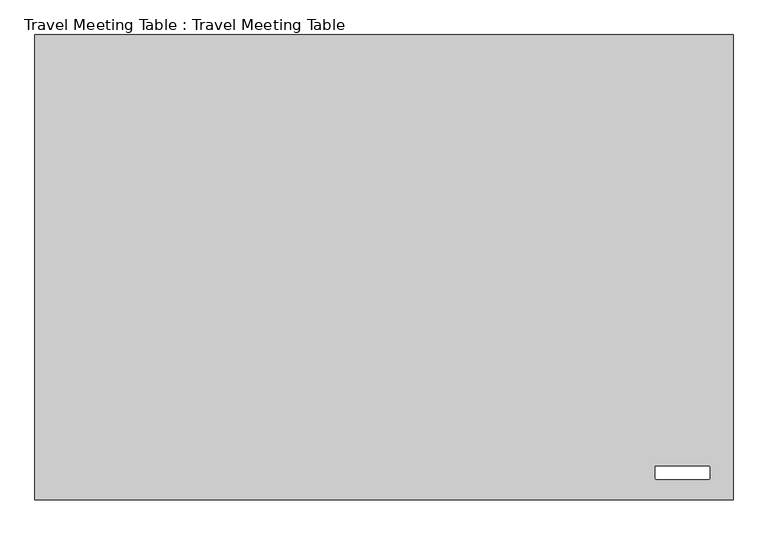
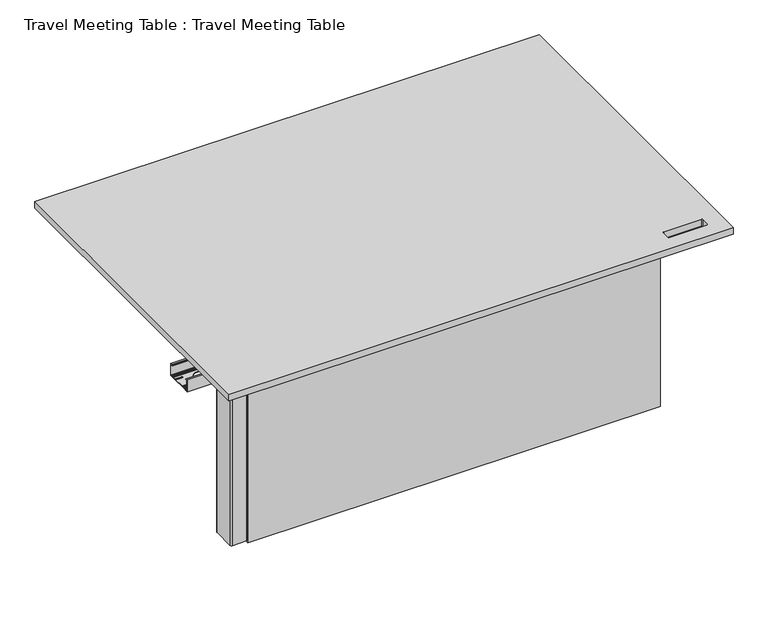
"""IFC4 building model written with IfcOpenShell, lengths in millimetres: furniture geometry, Travel Meeting Table : Travel Meeting Table."""

from ifc_helpers import new_model, si_unit, point, frame, frame_2d, origin, origin_with_axes, place, context, project, spatial, polyline, circle_curve, trimmed, segment, composite_curve, outline, extrude, source, transform, mapped, element, save
from ifc_brep_helpers import plane_surface, cylinder_surface, revolved_surface, advanced_brep


def travel_meeting_table_travel_meeting_table_50cc2492(model_context):
    return source(origin(), model_context, "Body", "SolidModel", [
        advanced_brep(
        [(777.5, -129.3349834, 445.9399678), (777.5, -129.3349834, 401.4999478), (777.5, -104.1674426, 401.4999478), (777.5, -104.1674426, 403.5399396), (777.5, -112.251976, 403.5399396), (777.5, -113.2114043, 404.7244349), (777.5, -114.1621004, 408.0556929), (777.5, -115.3250115, 406.9566355), (777.5, -118.3083302, 406.985035), (777.5, -119.513885, 408.0405045), (777.5, -120.4539023, 404.7426784), (777.5, -121.4331352, 403.5399396), (777.5, -127.674983, 403.5399396), (777.5, -127.674983, 442.7399451), (777.5, -120.6350057, 442.7399451), (777.5, -120.6350057, 444.2399626), (777.5, -123.9349496, 444.2399626), (777.5, -123.9349496, 445.9399678), (777.5, -27.4999929, 401.4999478), (777.5, -27.4999929, 445.9399678), (777.5, -32.9000267, 445.9399678), (777.5, -32.9000267, 444.2399626), (777.5, -36.1999706, 444.2399626), (777.5, -36.1999706, 442.7399451), (777.5, -29.1599933, 442.7399451), (777.5, -29.1599933, 403.5399396), (777.5, -35.4018411, 403.5399396), (777.5, -36.381074, 404.7426784), (777.5, -37.3210913, 408.0405045), (777.5, -38.5266461, 406.985035), (777.5, -41.5099648, 406.9566355), (777.5, -42.6728759, 408.0556929), (777.5, -43.623572, 404.7244349), (777.5, -44.5830003, 403.5399396), (777.5, -52.6675337, 403.5399396), (777.5, -52.6675337, 401.4999478), (777.5, -97.6675486, 401.4999478), (777.5, -59.1674277, 401.4999478), (777.5, -59.1674277, 403.5399396), (777.5, -97.6675486, 403.5399396), (-777.5, -129.3349834, 401.4999478), (-777.5, -129.3349834, 445.9399678), (-777.5, -123.9349496, 445.9399678), (-777.5, -123.9349496, 444.2399626), (-777.5, -120.6350057, 444.2399626), (-777.5, -120.6350057, 442.7399451), (-777.5, -127.674983, 442.7399451), (-777.5, -127.674983, 403.5399396), (-777.5, -121.4331352, 403.5399396), (-777.5, -120.4539023, 404.7426784), (-777.5, -119.513885, 408.0405045), (-777.5, -118.3083302, 406.985035), (-777.5, -115.3250115, 406.9566355), (-777.5, -114.1621004, 408.0556929), (-777.5, -113.2114043, 404.7244349), (-777.5, -112.251976, 403.5399396), (-777.5, -104.1674426, 403.5399396), (-777.5, -104.1674426, 401.4999478), (-777.5, -27.4999929, 445.9399678), (-777.5, -27.4999929, 401.4999478), (-777.5, -52.6675337, 401.4999478), (-777.5, -52.6675337, 403.5399396), (-777.5, -44.5830003, 403.5399396), (-777.5, -43.623572, 404.7244349), (-777.5, -42.6728759, 408.0556929), (-777.5, -41.5099648, 406.9566355), (-777.5, -38.5266461, 406.985035), (-777.5, -37.3210913, 408.0405045), (-777.5, -36.381074, 404.7426784), (-777.5, -35.4018411, 403.5399396), (-777.5, -29.1599933, 403.5399396), (-777.5, -29.1599933, 442.7399451), (-777.5, -36.1999706, 442.7399451), (-777.5, -36.1999706, 444.2399626), (-777.5, -32.9000267, 444.2399626), (-777.5, -32.9000267, 445.9399678), (-777.5, -97.6675486, 403.5399396), (-777.5, -59.1674277, 403.5399396), (-777.5, -59.1674277, 401.4999478), (-777.5, -97.6675486, 401.4999478), (-754.7499352, -104.1674426, 401.4999478), (-754.7499352, -97.6675486, 401.4999478), (-754.7499352, -59.1674277, 401.4999478), (-754.7499352, -52.6675337, 401.4999478), (754.7499352, -52.6675337, 401.4999478), (754.7499352, -59.1674277, 401.4999478), (754.7499352, -97.6675486, 401.4999478), (754.7499352, -104.1674426, 401.4999478), (-722.4484184, -78.4174882, 401.4999478), (-672.4484184, -78.4174882, 401.4999478), (672.4484184, -78.4174882, 401.4999478), (722.4484184, -78.4174882, 401.4999478), (-754.7499352, -52.6675337, 403.5399396), (-754.7499352, -59.1674277, 403.5399396), (-754.7499352, -97.6675486, 403.5399396), (-754.7499352, -104.1674426, 403.5399396), (754.7499352, -104.1674426, 403.5399396), (754.7499352, -97.6675486, 403.5399396), (754.7499352, -59.1674277, 403.5399396), (754.7499352, -52.6675337, 403.5399396), (-672.4484184, -78.4174882, 403.5399396), (-722.4484184, -78.4174882, 403.5399396), (722.4484184, -78.4174882, 403.5399396), (672.4484184, -78.4174882, 403.5399396)],
        [
            (0, 1),
            (1, 2),
            (2, 3),
            (3, 4),
            (4, 5, circle_curve(frame((777.5, -112.251976, 404.5207505), z_axis=(-1.0, 0.0, 0.0), x_axis=(0.0, 1.0, 0.0)), 0.9808109)),
            (5, 6, circle_curve(frame((777.5, -116.8307408, 405.492812), z_axis=(1.0, 0.0, 0.0), x_axis=(0.0, 1.0, 0.0)), 3.7)),
            (6, 7, circle_curve(frame((777.5, -114.7513108, 407.5143696), z_axis=(1.0, 0.0, 0.0), x_axis=(0.0, 1.0, 0.0)), 0.8001249)),
            (7, 8, circle_curve(frame((777.5, -116.8307408, 405.492812), z_axis=(-1.0, 0.0, 0.0), x_axis=(0.0, 1.0, 0.0)), 2.1)),
            (8, 9, circle_curve(frame((777.5, -118.932436, 407.4884085), z_axis=(1.0, 0.0, 0.0), x_axis=(0.0, 1.0, 0.0)), 0.801806)),
            (9, 10, circle_curve(frame((777.5, -116.8307408, 405.492812), z_axis=(1.0, 0.0, 0.0), x_axis=(0.0, 1.0, 0.0)), 3.7)),
            (10, 11, circle_curve(frame((777.5, -121.4331352, 404.5399396), z_axis=(-1.0, 0.0, 0.0), x_axis=(0.0, 1.0, 0.0)), 1.0)),
            (11, 12),
            (12, 13),
            (13, 14),
            (14, 15),
            (15, 16),
            (16, 17),
            (17, 0),
            (18, 19),
            (19, 20),
            (20, 21),
            (21, 22),
            (22, 23),
            (23, 24),
            (24, 25),
            (25, 26),
            (26, 27, circle_curve(frame((777.5, -35.4018411, 404.5399396), z_axis=(-1.0, 0.0, 0.0), x_axis=(0.0, -1.0, 0.0)), 1.0)),
            (27, 28, circle_curve(frame((777.5, -40.0042355, 405.492812), z_axis=(1.0, 0.0, 0.0), x_axis=(0.0, -1.0, 0.0)), 3.7)),
            (28, 29, circle_curve(frame((777.5, -37.9025403, 407.4884085), z_axis=(1.0, 0.0, 0.0), x_axis=(0.0, -1.0, 0.0)), 0.801806)),
            (29, 30, circle_curve(frame((777.5, -40.0042355, 405.492812), z_axis=(-1.0, 0.0, 0.0), x_axis=(0.0, -1.0, 0.0)), 2.1)),
            (30, 31, circle_curve(frame((777.5, -42.0836655, 407.5143696), z_axis=(1.0, 0.0, 0.0), x_axis=(0.0, -1.0, 0.0)), 0.8001249)),
            (31, 32, circle_curve(frame((777.5, -40.0042355, 405.492812), z_axis=(1.0, 0.0, 0.0), x_axis=(0.0, -1.0, 0.0)), 3.7)),
            (32, 33, circle_curve(frame((777.5, -44.5830003, 404.5207505), z_axis=(-1.0, 0.0, 0.0), x_axis=(0.0, -1.0, 0.0)), 0.9808109)),
            (33, 34),
            (34, 35),
            (35, 18),
            (36, 37),
            (37, 38),
            (38, 39),
            (39, 36),
            (40, 41),
            (41, 42),
            (42, 43),
            (43, 44),
            (44, 45),
            (45, 46),
            (46, 47),
            (47, 48),
            (48, 49, circle_curve(frame((-777.5, -121.4331352, 404.5399396), z_axis=(1.0, 0.0, 0.0), x_axis=(0.0, 1.0, 0.0)), 1.0)),
            (49, 50, circle_curve(frame((-777.5, -116.8307408, 405.492812), z_axis=(-1.0, 0.0, 0.0), x_axis=(0.0, 1.0, 0.0)), 3.7)),
            (50, 51, circle_curve(frame((-777.5, -118.932436, 407.4884085), z_axis=(-1.0, 0.0, 0.0), x_axis=(0.0, 1.0, 0.0)), 0.801806)),
            (51, 52, circle_curve(frame((-777.5, -116.8307408, 405.492812), z_axis=(1.0, 0.0, 0.0), x_axis=(0.0, 1.0, 0.0)), 2.1)),
            (52, 53, circle_curve(frame((-777.5, -114.7513108, 407.5143696), z_axis=(-1.0, 0.0, 0.0), x_axis=(0.0, 1.0, 0.0)), 0.8001249)),
            (53, 54, circle_curve(frame((-777.5, -116.8307408, 405.492812), z_axis=(-1.0, 0.0, 0.0), x_axis=(0.0, 1.0, 0.0)), 3.7)),
            (54, 55, circle_curve(frame((-777.5, -112.251976, 404.5207505), z_axis=(1.0, 0.0, 0.0), x_axis=(0.0, 1.0, 0.0)), 0.9808109)),
            (55, 56),
            (56, 57),
            (57, 40),
            (58, 59),
            (59, 60),
            (60, 61),
            (61, 62),
            (62, 63, circle_curve(frame((-777.5, -44.5830003, 404.5207505), z_axis=(1.0, 0.0, 0.0), x_axis=(0.0, -1.0, 0.0)), 0.9808109)),
            (63, 64, circle_curve(frame((-777.5, -40.0042355, 405.492812), z_axis=(-1.0, 0.0, 0.0), x_axis=(0.0, -1.0, 0.0)), 3.7)),
            (64, 65, circle_curve(frame((-777.5, -42.0836655, 407.5143696), z_axis=(-1.0, 0.0, 0.0), x_axis=(0.0, -1.0, 0.0)), 0.8001249)),
            (65, 66, circle_curve(frame((-777.5, -40.0042355, 405.492812), z_axis=(1.0, 0.0, 0.0), x_axis=(0.0, -1.0, 0.0)), 2.1)),
            (66, 67, circle_curve(frame((-777.5, -37.9025403, 407.4884085), z_axis=(-1.0, 0.0, 0.0), x_axis=(0.0, -1.0, 0.0)), 0.801806)),
            (67, 68, circle_curve(frame((-777.5, -40.0042355, 405.492812), z_axis=(-1.0, 0.0, 0.0), x_axis=(0.0, -1.0, 0.0)), 3.7)),
            (68, 69, circle_curve(frame((-777.5, -35.4018411, 404.5399396), z_axis=(1.0, 0.0, 0.0), x_axis=(0.0, -1.0, 0.0)), 1.0)),
            (69, 70),
            (70, 71),
            (71, 72),
            (72, 73),
            (73, 74),
            (74, 75),
            (75, 58),
            (76, 77),
            (77, 78),
            (78, 79),
            (79, 76),
            (0, 41),
            (40, 1),
            (57, 80),
            (80, 81, circle_curve(frame((-754.7499352, -100.9174956, 401.4999478), z_axis=(0.0, 0.0, 1.0), x_axis=(1.0, 0.0, 0.0)), 3.249947)),
            (81, 79),
            (78, 82),
            (82, 83, circle_curve(frame((-754.7499352, -55.9174807, 401.4999478), z_axis=(0.0, 0.0, 1.0), x_axis=(1.0, 0.0, 0.0)), 3.249947)),
            (83, 60),
            (59, 18),
            (35, 84),
            (84, 85, circle_curve(frame((754.7499352, -55.9174807, 401.4999478), z_axis=(0.0, 0.0, 1.0), x_axis=(-1.0, 0.0, 0.0)), 3.249947)),
            (85, 37),
            (36, 86),
            (86, 87, circle_curve(frame((754.7499352, -100.9174956, 401.4999478), z_axis=(0.0, 0.0, 1.0), x_axis=(-1.0, 0.0, 0.0)), 3.249947)),
            (87, 2),
            (88, 89, circle_curve(frame((-697.4484184, -78.4174882, 401.4999478), z_axis=(0.0, 0.0, 1.0), x_axis=(1.0, 0.0, 0.0)), 25.0)),
            (89, 88, circle_curve(frame((-697.4484184, -78.4174882, 401.4999478), z_axis=(0.0, 0.0, 1.0), x_axis=(1.0, 0.0, 0.0)), 25.0)),
            (90, 91, circle_curve(frame((697.4484184, -78.4174882, 401.4999478), z_axis=(0.0, 0.0, 1.0), x_axis=(-1.0, 0.0, 0.0)), 25.0)),
            (91, 90, circle_curve(frame((697.4484184, -78.4174882, 401.4999478), z_axis=(0.0, 0.0, 1.0), x_axis=(-1.0, 0.0, 0.0)), 25.0)),
            (58, 19),
            (75, 20),
            (74, 21),
            (73, 22),
            (72, 23),
            (71, 24),
            (70, 25),
            (69, 26),
            (68, 27),
            (67, 28),
            (66, 29),
            (65, 30),
            (64, 31),
            (63, 32),
            (62, 33),
            (61, 92),
            (92, 93, circle_curve(frame((-754.7499352, -55.9174807, 403.5399396), z_axis=(0.0, 0.0, -1.0), x_axis=(1.0, 0.0, 0.0)), 3.249947)),
            (93, 77),
            (76, 94),
            (94, 95, circle_curve(frame((-754.7499352, -100.9174956, 403.5399396), z_axis=(0.0, 0.0, -1.0), x_axis=(1.0, 0.0, 0.0)), 3.249947)),
            (95, 56),
            (55, 4),
            (3, 96),
            (96, 97, circle_curve(frame((754.7499352, -100.9174956, 403.5399396), z_axis=(0.0, 0.0, -1.0), x_axis=(-1.0, 0.0, 0.0)), 3.249947)),
            (97, 39),
            (38, 98),
            (98, 99, circle_curve(frame((754.7499352, -55.9174807, 403.5399396), z_axis=(0.0, 0.0, -1.0), x_axis=(-1.0, 0.0, 0.0)), 3.249947)),
            (99, 34),
            (100, 101, circle_curve(frame((-697.4484184, -78.4174882, 403.5399396), z_axis=(0.0, 0.0, -1.0), x_axis=(1.0, 0.0, 0.0)), 25.0)),
            (101, 100, circle_curve(frame((-697.4484184, -78.4174882, 403.5399396), z_axis=(0.0, 0.0, -1.0), x_axis=(1.0, 0.0, 0.0)), 25.0)),
            (102, 103, circle_curve(frame((697.4484184, -78.4174882, 403.5399396), z_axis=(0.0, 0.0, -1.0), x_axis=(-1.0, 0.0, 0.0)), 25.0)),
            (103, 102, circle_curve(frame((697.4484184, -78.4174882, 403.5399396), z_axis=(0.0, 0.0, -1.0), x_axis=(-1.0, 0.0, 0.0)), 25.0)),
            (54, 5),
            (53, 6),
            (52, 7),
            (51, 8),
            (50, 9),
            (49, 10),
            (48, 11),
            (47, 12),
            (46, 13),
            (45, 14),
            (44, 15),
            (43, 16),
            (42, 17),
            (83, 92),
            (93, 82),
            (95, 80),
            (94, 81),
            (88, 101),
            (100, 89),
            (99, 84),
            (85, 98),
            (87, 96),
            (86, 97),
            (102, 91),
            (90, 103),
        ],
        [
            plane_surface(frame((777.5, -129.3349834, 401.4999478), z_axis=(1.0, 0.0, 0.0), x_axis=(0.0, 0.0, -1.0))),
            plane_surface(frame((-777.5, -129.3349834, 401.4999478), z_axis=(-1.0, 0.0, 0.0), x_axis=(0.0, 0.0, 1.0))),
            plane_surface(frame((777.5, -129.3349834, 445.9399678), z_axis=(0.0, -1.0, 0.0), x_axis=(-1.0, 0.0, 0.0))),
            plane_surface(frame((777.5, -129.3349834, 401.4999478), z_axis=(0.0, 0.0, -1.0), x_axis=(-1.0, 0.0, 0.0))),
            plane_surface(frame((777.5, -27.4999929, 401.4999478), z_axis=(0.0, 1.0, 0.0), x_axis=(-1.0, 0.0, 0.0))),
            plane_surface(frame((777.5, -27.4999929, 445.9399678), z_axis=(0.0, 0.0, 1.0), x_axis=(-1.0, 0.0, 0.0))),
            plane_surface(frame((777.5, -32.9000267, 445.9399678), z_axis=(0.0, -1.0, 0.0), x_axis=(-1.0, 0.0, 0.0))),
            plane_surface(frame((777.5, -32.9000267, 444.2399626), z_axis=(0.0, 0.0, 1.0), x_axis=(-1.0, 0.0, 0.0))),
            plane_surface(frame((777.5, -36.1999706, 444.2399626), z_axis=(0.0, -1.0, 0.0), x_axis=(-1.0, 0.0, 0.0))),
            plane_surface(frame((777.5, -36.1999706, 442.7399451), z_axis=(0.0, 0.0, -1.0), x_axis=(-1.0, 0.0, 0.0))),
            plane_surface(frame((777.5, -29.1599933, 442.7399451), z_axis=(0.0, -1.0, 0.0), x_axis=(-1.0, 0.0, 0.0))),
            plane_surface(frame((777.5, -29.1599933, 403.5399396), z_axis=(0.0, 0.0, 1.0), x_axis=(-1.0, 0.0, 0.0))),
            revolved_surface(polyline([(-777.5, -36.4018411, 404.5399396), (777.5, -36.4018411, 404.5399396)]), (-777.5, -35.4018411, 404.5399396), (-1.0, 0.0, 0.0)),
            cylinder_surface(frame((-777.5, -40.0042355, 405.492812), z_axis=(1.0, 0.0, 0.0), x_axis=(0.0, -1.0, 0.0)), 3.7),
            cylinder_surface(frame((-777.5, -37.9025403, 407.4884085), z_axis=(1.0, 0.0, 0.0), x_axis=(0.0, -1.0, 0.0)), 0.801806),
            revolved_surface(polyline([(-777.5, -42.1042355, 405.492812), (777.5, -42.1042355, 405.492812)]), (-777.5, -40.0042355, 405.492812), (-1.0, 0.0, 0.0)),
            cylinder_surface(frame((-777.5, -42.0836655, 407.5143696), z_axis=(1.0, 0.0, 0.0), x_axis=(0.0, -1.0, 0.0)), 0.8001249),
            revolved_surface(polyline([(-777.5, -45.5638112, 404.5207505), (777.5, -45.5638112, 404.5207505)]), (-777.5, -44.5830003, 404.5207505), (-1.0, 0.0, 0.0)),
            plane_surface(frame((777.5, -44.5830003, 403.5399396), z_axis=(0.0, 0.0, 1.0), x_axis=(-1.0, 0.0, 0.0))),
            revolved_surface(polyline([(-777.5, -111.2711651, 404.5207505), (777.5, -111.2711651, 404.5207505)]), (-777.5, -112.251976, 404.5207505), (-1.0, 0.0, 0.0)),
            cylinder_surface(frame((-777.5, -116.8307408, 405.492812), z_axis=(1.0, 0.0, 0.0), x_axis=(0.0, 1.0, 0.0)), 3.7),
            cylinder_surface(frame((-777.5, -114.7513108, 407.5143696), z_axis=(1.0, 0.0, 0.0), x_axis=(0.0, 1.0, 0.0)), 0.8001249),
            revolved_surface(polyline([(-777.5, -114.7307408, 405.492812), (777.5, -114.7307408, 405.492812)]), (-777.5, -116.8307408, 405.492812), (-1.0, 0.0, 0.0)),
            cylinder_surface(frame((-777.5, -118.932436, 407.4884085), z_axis=(1.0, 0.0, 0.0), x_axis=(0.0, 1.0, 0.0)), 0.801806),
            revolved_surface(polyline([(-777.5, -120.4331352, 404.5399396), (777.5, -120.4331352, 404.5399396)]), (-777.5, -121.4331352, 404.5399396), (-1.0, 0.0, 0.0)),
            plane_surface(frame((777.5, -121.4331352, 403.5399396), z_axis=(0.0, 0.0, 1.0), x_axis=(-1.0, 0.0, 0.0))),
            plane_surface(frame((777.5, -127.674983, 403.5399396), z_axis=(0.0, 1.0, 0.0), x_axis=(-1.0, 0.0, 0.0))),
            plane_surface(frame((777.5, -127.674983, 442.7399451), z_axis=(0.0, 0.0, -1.0), x_axis=(-1.0, 0.0, 0.0))),
            plane_surface(frame((777.5, -120.6350057, 442.7399451), z_axis=(0.0, 1.0, 0.0), x_axis=(-1.0, 0.0, 0.0))),
            plane_surface(frame((777.5, -120.6350057, 444.2399626), z_axis=(0.0, 0.0, 1.0), x_axis=(-1.0, 0.0, 0.0))),
            plane_surface(frame((777.5, -123.9349496, 444.2399626), z_axis=(0.0, 1.0, 0.0), x_axis=(-1.0, 0.0, 0.0))),
            plane_surface(frame((777.5, -123.9349496, 445.9399678), z_axis=(0.0, 0.0, 1.0), x_axis=(-1.0, 0.0, 0.0))),
            plane_surface(frame((-754.7499352, -52.6675337, 403.5399396), z_axis=(0.0, -1.0, 0.0), x_axis=(0.0, 0.0, -1.0))),
            plane_surface(frame((-777.5, -59.1674277, 403.5399396), z_axis=(0.0, 1.0, 0.0), x_axis=(0.0, 0.0, -1.0))),
            revolved_surface(polyline([(-751.4999882, -55.9174807, 403.5399396), (-751.4999882, -55.9174807, 401.4999478)]), (-754.7499352, -55.9174807, 383.5399396), (0.0, 0.0, 1.0)),
            plane_surface(frame((-777.5, -104.1674426, 403.5399396), z_axis=(0.0, 1.0, 0.0), x_axis=(0.0, 0.0, -1.0))),
            revolved_surface(polyline([(-751.4999882, -100.9174956, 403.5399396), (-751.4999882, -100.9174956, 401.4999478)]), (-754.7499352, -100.9174956, 403.5399396), (0.0, 0.0, 1.0)),
            plane_surface(frame((-754.7499352, -97.6675486, 403.5399396), z_axis=(0.0, -1.0, 0.0), x_axis=(0.0, 0.0, -1.0))),
            revolved_surface(polyline([(-672.4484184, -78.4174882, 403.5399396), (-672.4484184, -78.4174882, 401.4999478)]), (-697.4484184, -78.4174882, 403.5399396), (0.0, 0.0, 1.0)),
            plane_surface(frame((754.7499352, -52.6675337, 403.5399396), z_axis=(0.0, -1.0, 0.0), x_axis=(0.0, 0.0, -1.0))),
            plane_surface(frame((777.5, -59.1674277, 403.5399396), z_axis=(0.0, 1.0, 0.0), x_axis=(0.0, 0.0, -1.0))),
            revolved_surface(polyline([(751.4999882, -55.9174807, 403.5399396), (751.4999882, -55.9174807, 401.4999478)]), (754.7499352, -55.9174807, 383.5399396), (0.0, 0.0, 1.0)),
            plane_surface(frame((777.5, -104.1674426, 403.5399396), z_axis=(0.0, 1.0, 0.0), x_axis=(0.0, 0.0, -1.0))),
            revolved_surface(polyline([(751.4999882, -100.9174956, 403.5399396), (751.4999882, -100.9174956, 401.4999478)]), (754.7499352, -100.9174956, 403.5399396), (0.0, 0.0, 1.0)),
            plane_surface(frame((754.7499352, -97.6675486, 403.5399396), z_axis=(0.0, -1.0, 0.0), x_axis=(0.0, 0.0, -1.0))),
            revolved_surface(polyline([(672.4484184, -78.4174882, 403.5399396), (672.4484184, -78.4174882, 401.4999478)]), (697.4484184, -78.4174882, 403.5399396), (0.0, 0.0, 1.0)),
        ],
        [
            (0, [[1, 2, 3, 4, 5, 6, 7, 8, 9, 10, 11, 12, 13, 14, 15, 16, 17, 18]]),
            (0, [[19, 20, 21, 22, 23, 24, 25, 26, 27, 28, 29, 30, 31, 32, 33, 34, 35, 36]]),
            (0, [[37, 38, 39, 40]]),
            (1, [[41, 42, 43, 44, 45, 46, 47, 48, 49, 50, 51, 52, 53, 54, 55, 56, 57, 58]]),
            (1, [[59, 60, 61, 62, 63, 64, 65, 66, 67, 68, 69, 70, 71, 72, 73, 74, 75, 76]]),
            (1, [[77, 78, 79, 80]]),
            (2, [[-1, 81, -41, 82]]),
            (3, [[-82, -58, 83, 84, 85, -79, 86, 87, 88, -60, 89, -36, 90, 91, 92, -37, 93, 94, 95, -2], [96, 97], [98, 99]]),
            (4, [[-19, -89, -59, 100]]),
            (5, [[-20, -100, -76, 101]]),
            (6, [[-21, -101, -75, 102]]),
            (7, [[-22, -102, -74, 103]]),
            (8, [[-23, -103, -73, 104]]),
            (9, [[-24, -104, -72, 105]]),
            (10, [[-25, -105, -71, 106]]),
            (11, [[-26, -106, -70, 107]]),
            (12, [[-27, -107, -69, 108]]),
            (13, [[-28, -108, -68, 109]]),
            (14, [[-29, -109, -67, 110]]),
            (15, [[-30, -110, -66, 111]]),
            (16, [[-31, -111, -65, 112]]),
            (13, [[-32, -112, -64, 113]]),
            (17, [[-33, -113, -63, 114]]),
            (18, [[-114, -62, 115, 116, 117, -77, 118, 119, 120, -56, 121, -4, 122, 123, 124, -39, 125, 126, 127, -34], [128, 129], [130, 131]]),
            (19, [[-5, -121, -55, 132]]),
            (20, [[-6, -132, -54, 133]]),
            (21, [[-7, -133, -53, 134]]),
            (22, [[-8, -134, -52, 135]]),
            (23, [[-9, -135, -51, 136]]),
            (20, [[-10, -136, -50, 137]]),
            (24, [[-11, -137, -49, 138]]),
            (25, [[-12, -138, -48, 139]]),
            (26, [[-13, -139, -47, 140]]),
            (27, [[-14, -140, -46, 141]]),
            (28, [[-15, -141, -45, 142]]),
            (29, [[-16, -142, -44, 143]]),
            (30, [[-17, -143, -43, 144]]),
            (31, [[-18, -144, -42, -81]]),
            (32, [[145, -115, -61, -88]]),
            (33, [[146, -86, -78, -117]]),
            (34, [[-145, -87, -146, -116]]),
            (35, [[147, -83, -57, -120]]),
            (36, [[-147, -119, 148, -84]]),
            (37, [[-148, -118, -80, -85]]),
            (38, [[149, -128, 150, -96]]),
            (38, [[-149, -97, -150, -129]]),
            (39, [[151, -90, -35, -127]]),
            (40, [[152, -125, -38, -92]]),
            (41, [[-151, -126, -152, -91]]),
            (42, [[153, -122, -3, -95]]),
            (43, [[-153, -94, 154, -123]]),
            (44, [[-154, -93, -40, -124]]),
            (45, [[155, -98, 156, -130]]),
            (45, [[-155, -131, -156, -99]]),
        ],
    ),
        extrude(outline(polyline([(-93.8250143, 443.539969), (-92.3249605, 443.539969), (-92.3249605, 403.5399396), (-112.3249752, 403.5399396), (-112.3249752, 405.039957), (-93.8250143, 405.039957), (-93.8250143, 443.539969)])), frame((-342.4998791, 0.0, 0.0), z_axis=(1.0, 0.0, 0.0), x_axis=(0.0, 1.0, 0.0)), (0.0, 0.0, 1.0), 684.9997581),
        advanced_brep(
        [(-796.3659522, -346.7334746, 695.0000198), (-796.3659522, -426.7334317, 695.0000198), (-791.3659522, -431.7334317, 695.0000198), (-741.3661117, -431.7334317, 695.0000198), (-736.3661261, -426.7334462, 695.0000198), (-736.3661261, -346.7334746, 695.0000198), (-741.3661261, -341.7334746, 695.0000198), (-791.3659522, -341.7334746, 695.0000198), (-738.3661261, -426.7334462, 695.0000198), (-741.3661117, -429.7334317, 695.0000198), (-791.3659522, -429.7334317, 695.0000198), (-794.3659522, -426.7334317, 695.0000198), (-794.3659522, -346.7334746, 695.0000198), (-791.3659522, -343.7334746, 695.0000198), (-741.3661261, -343.7334746, 695.0000198), (-738.3661261, -346.7334746, 695.0000198), (-796.3659522, -346.7334746, 8.4999967), (-791.3659522, -341.7334746, 8.4999967), (-741.3661261, -341.7334746, 8.4999967), (-736.3661261, -346.7334746, 8.4999967), (-736.3661261, -426.7334462, 8.4999967), (-741.3661117, -431.7334317, 8.4999967), (-791.3659522, -431.7334317, 8.4999967), (-796.3659522, -426.7334317, 8.4999967), (-738.3661261, -426.7334462, 8.4999967), (-738.3661261, -346.7334746, 8.4999967), (-741.3661261, -343.7334746, 8.4999967), (-791.3659522, -343.7334746, 8.4999967), (-794.3659522, -346.7334746, 8.4999967), (-794.3659522, -426.7334317, 8.4999967), (-791.3659522, -429.7334317, 8.4999967), (-741.3661117, -429.7334317, 8.4999967), (-738.3661261, -426.7334462, 21.9964673), (-741.3661117, -429.7334317, 21.9964673), (-741.3661117, -429.7334317, 17.6595378), (-738.3661261, -426.7334462, 17.6595378), (-791.3659522, -429.7334317, 21.9964673), (-791.3659522, -429.7334317, 17.6595378), (-794.3659522, -426.7334317, 21.9964673), (-794.3659522, -426.7334317, 17.6595378), (-794.3659522, -346.7334746, 21.9964673), (-794.3659522, -346.7334746, 17.6595378), (-791.3659522, -343.7334746, 21.9964673), (-791.3659522, -343.7334746, 17.6595378), (-741.3661261, -343.7334746, 21.9964673), (-741.3661261, -343.7334746, 17.6595378), (-738.3661261, -346.7334746, 21.9964673), (-738.3661261, -346.7334746, 17.6595378), (-766.3660392, -379.7271584, 21.9964673), (-766.3660392, -393.7396752, 21.9964673), (-766.3660392, -379.7271584, 17.6595378), (-766.3660392, -393.7396752, 17.6595378)],
        [
            (0, 1),
            (1, 2, circle_curve(frame((-791.3659522, -426.7334317, 695.0000198), z_axis=(0.0, 0.0, 1.0), x_axis=(1.0, 0.0, 0.0)), 5.0)),
            (2, 3),
            (3, 4, circle_curve(frame((-741.3661117, -426.7334462, 695.0000198), z_axis=(0.0, 0.0, 1.0), x_axis=(1.0, 0.0, 0.0)), 4.9999855)),
            (4, 5),
            (5, 6, circle_curve(frame((-741.3661261, -346.7334746, 695.0000198), z_axis=(0.0, 0.0, 1.0), x_axis=(1.0, 0.0, 0.0)), 5.0)),
            (6, 7),
            (7, 0, circle_curve(frame((-791.3659522, -346.7334746, 695.0000198), z_axis=(0.0, 0.0, 1.0), x_axis=(1.0, 0.0, 0.0)), 5.0)),
            (8, 9, circle_curve(frame((-741.3661117, -426.7334462, 695.0000198), z_axis=(0.0, 0.0, -1.0), x_axis=(1.0, 0.0, 0.0)), 2.9999855)),
            (9, 10),
            (10, 11, circle_curve(frame((-791.3659522, -426.7334317, 695.0000198), z_axis=(0.0, 0.0, -1.0), x_axis=(1.0, 0.0, 0.0)), 3.0)),
            (11, 12),
            (12, 13, circle_curve(frame((-791.3659522, -346.7334746, 695.0000198), z_axis=(0.0, 0.0, -1.0), x_axis=(1.0, 0.0, 0.0)), 3.0)),
            (13, 14),
            (14, 15, circle_curve(frame((-741.3661261, -346.7334746, 695.0000198), z_axis=(0.0, 0.0, -1.0), x_axis=(1.0, 0.0, 0.0)), 3.0)),
            (15, 8),
            (16, 17, circle_curve(frame((-791.3659522, -346.7334746, 8.4999967), z_axis=(0.0, 0.0, -1.0), x_axis=(1.0, 0.0, 0.0)), 5.0)),
            (17, 18),
            (18, 19, circle_curve(frame((-741.3661261, -346.7334746, 8.4999967), z_axis=(0.0, 0.0, -1.0), x_axis=(1.0, 0.0, 0.0)), 5.0)),
            (19, 20),
            (20, 21, circle_curve(frame((-741.3661117, -426.7334462, 8.4999967), z_axis=(0.0, 0.0, -1.0), x_axis=(1.0, 0.0, 0.0)), 4.9999855)),
            (21, 22),
            (22, 23, circle_curve(frame((-791.3659522, -426.7334317, 8.4999967), z_axis=(0.0, 0.0, -1.0), x_axis=(1.0, 0.0, 0.0)), 5.0)),
            (23, 16),
            (24, 25),
            (25, 26, circle_curve(frame((-741.3661261, -346.7334746, 8.4999967), z_axis=(0.0, 0.0, 1.0), x_axis=(1.0, 0.0, 0.0)), 3.0)),
            (26, 27),
            (27, 28, circle_curve(frame((-791.3659522, -346.7334746, 8.4999967), z_axis=(0.0, 0.0, 1.0), x_axis=(1.0, 0.0, 0.0)), 3.0)),
            (28, 29),
            (29, 30, circle_curve(frame((-791.3659522, -426.7334317, 8.4999967), z_axis=(0.0, 0.0, 1.0), x_axis=(1.0, 0.0, 0.0)), 3.0)),
            (30, 31),
            (31, 24, circle_curve(frame((-741.3661117, -426.7334462, 8.4999967), z_axis=(0.0, 0.0, 1.0), x_axis=(1.0, 0.0, 0.0)), 2.9999855)),
            (0, 16),
            (23, 1),
            (22, 2),
            (21, 3),
            (20, 4),
            (19, 5),
            (18, 6),
            (17, 7),
            (8, 32),
            (32, 33, circle_curve(frame((-741.3661117, -426.7334462, 21.9964673), z_axis=(0.0, 0.0, -1.0), x_axis=(1.0, 0.0, 0.0)), 2.9999855)),
            (33, 9),
            (31, 34),
            (34, 35, circle_curve(frame((-741.3661117, -426.7334462, 17.6595378), z_axis=(0.0, 0.0, 1.0), x_axis=(1.0, 0.0, 0.0)), 2.9999855)),
            (35, 24),
            (33, 36),
            (36, 10),
            (30, 37),
            (37, 34),
            (36, 38, circle_curve(frame((-791.3659522, -426.7334317, 21.9964673), z_axis=(0.0, 0.0, -1.0), x_axis=(1.0, 0.0, 0.0)), 3.0)),
            (38, 11),
            (29, 39),
            (39, 37, circle_curve(frame((-791.3659522, -426.7334317, 17.6595378), z_axis=(0.0, 0.0, 1.0), x_axis=(1.0, 0.0, 0.0)), 3.0)),
            (38, 40),
            (40, 12),
            (28, 41),
            (41, 39),
            (40, 42, circle_curve(frame((-791.3659522, -346.7334746, 21.9964673), z_axis=(0.0, 0.0, -1.0), x_axis=(1.0, 0.0, 0.0)), 3.0)),
            (42, 13),
            (27, 43),
            (43, 41, circle_curve(frame((-791.3659522, -346.7334746, 17.6595378), z_axis=(0.0, 0.0, 1.0), x_axis=(1.0, 0.0, 0.0)), 3.0)),
            (42, 44),
            (44, 14),
            (26, 45),
            (45, 43),
            (44, 46, circle_curve(frame((-741.3661261, -346.7334746, 21.9964673), z_axis=(0.0, 0.0, -1.0), x_axis=(1.0, 0.0, 0.0)), 3.0)),
            (46, 15),
            (25, 47),
            (47, 45, circle_curve(frame((-741.3661261, -346.7334746, 17.6595378), z_axis=(0.0, 0.0, 1.0), x_axis=(1.0, 0.0, 0.0)), 3.0)),
            (46, 32),
            (35, 47),
            (48, 49, circle_curve(frame((-766.3660392, -386.7334168, 21.9964673), z_axis=(0.0, 0.0, -1.0), x_axis=(0.0, 1.0, 0.0)), 7.0062584)),
            (49, 48, circle_curve(frame((-766.3660392, -386.7334168, 21.9964673), z_axis=(0.0, 0.0, -1.0), x_axis=(0.0, 1.0, 0.0)), 7.0062584)),
            (50, 51, circle_curve(frame((-766.3660392, -386.7334168, 17.6595378), z_axis=(0.0, 0.0, 1.0), x_axis=(0.0, 1.0, 0.0)), 7.0062584)),
            (51, 50, circle_curve(frame((-766.3660392, -386.7334168, 17.6595378), z_axis=(0.0, 0.0, 1.0), x_axis=(0.0, 1.0, 0.0)), 7.0062584)),
            (48, 50),
            (51, 49),
        ],
        [
            plane_surface(frame((-796.3659522, -426.7334462, 695.0000198), z_axis=(0.0, 0.0, 1.0), x_axis=(0.0, -1.0, 0.0))),
            plane_surface(frame((-796.3659522, -426.7334462, 8.4999967), z_axis=(0.0, 0.0, -1.0), x_axis=(0.0, 1.0, 0.0))),
            plane_surface(frame((-796.3659522, -346.7334746, 695.0000198), z_axis=(-1.0, 0.0, 0.0), x_axis=(0.0, 0.0, -1.0))),
            cylinder_surface(frame((-791.3659522, -426.7334317, 8.4999967), z_axis=(0.0, 0.0, 1.0), x_axis=(1.0, 0.0, 0.0)), 5.0),
            plane_surface(frame((-791.3659522, -431.7334317, 695.0000198), z_axis=(0.0, -1.0, 0.0), x_axis=(0.0, 0.0, -1.0))),
            cylinder_surface(frame((-741.3661117, -426.7334462, 8.4999967), z_axis=(0.0, 0.0, 1.0), x_axis=(1.0, 0.0, 0.0)), 4.9999855),
            plane_surface(frame((-736.3661261, -426.7334462, 695.0000198), z_axis=(1.0, 0.0, 0.0), x_axis=(0.0, 0.0, -1.0))),
            cylinder_surface(frame((-741.3661261, -346.7334746, 8.4999967), z_axis=(0.0, 0.0, 1.0), x_axis=(1.0, 0.0, 0.0)), 5.0),
            plane_surface(frame((-741.3661261, -341.7334746, 695.0000198), z_axis=(0.0, 1.0, 0.0), x_axis=(0.0, 0.0, -1.0))),
            cylinder_surface(frame((-791.3659522, -346.7334746, 8.4999967), z_axis=(0.0, 0.0, 1.0), x_axis=(1.0, 0.0, 0.0)), 5.0),
            revolved_surface(polyline([(-738.3661262, -426.7334462, 21.9964673), (-738.3661262, -426.7334462, 695.0000198)]), (-741.3661117, -426.7334462, 0.0), (0.0, 0.0, -1.0)),
            revolved_surface(polyline([(-738.3661262, -426.7334462, 8.4999967), (-738.3661262, -426.7334462, 17.6595378)]), (-741.3661117, -426.7334462, 0.0), (0.0, 0.0, -1.0)),
            plane_surface(frame((-741.3661117, -429.7334317, 695.0000198), z_axis=(0.0, 1.0, 0.0), x_axis=(0.0, 0.0, -1.0))),
            revolved_surface(polyline([(-788.3659522, -426.7334317, 21.9964673), (-788.3659522, -426.7334317, 695.0000198)]), (-791.3659522, -426.7334317, 0.0), (0.0, 0.0, -1.0)),
            revolved_surface(polyline([(-788.3659522, -426.7334317, 8.4999967), (-788.3659522, -426.7334317, 17.6595378)]), (-791.3659522, -426.7334317, 0.0), (0.0, 0.0, -1.0)),
            plane_surface(frame((-794.3659522, -426.7334317, 695.0000198), z_axis=(1.0, 0.0, 0.0), x_axis=(0.0, 0.0, -1.0))),
            revolved_surface(polyline([(-788.3659522, -346.7334746, 21.9964673), (-788.3659522, -346.7334746, 695.0000198)]), (-791.3659522, -346.7334746, 0.0), (0.0, 0.0, -1.0)),
            revolved_surface(polyline([(-788.3659522, -346.7334746, 8.4999967), (-788.3659522, -346.7334746, 17.6595378)]), (-791.3659522, -346.7334746, 0.0), (0.0, 0.0, -1.0)),
            plane_surface(frame((-791.3659522, -343.7334746, 695.0000198), z_axis=(0.0, -1.0, 0.0), x_axis=(0.0, 0.0, -1.0))),
            revolved_surface(polyline([(-738.3661261, -346.7334746, 21.9964673), (-738.3661261, -346.7334746, 695.0000198)]), (-741.3661261, -346.7334746, 0.0), (0.0, 0.0, -1.0)),
            revolved_surface(polyline([(-738.3661261, -346.7334746, 8.4999967), (-738.3661261, -346.7334746, 17.6595378)]), (-741.3661261, -346.7334746, 0.0), (0.0, 0.0, -1.0)),
            plane_surface(frame((-738.3661261, -346.7334746, 695.0000198), z_axis=(-1.0, 0.0, 0.0), x_axis=(0.0, 0.0, -1.0))),
            plane_surface(frame((-794.3659522, -426.7334317, 21.9964673), z_axis=(0.0, 0.0, 1.0), x_axis=(0.0, -1.0, 0.0))),
            plane_surface(frame((-794.3659522, -426.7334317, 17.6595378), z_axis=(0.0, 0.0, -1.0), x_axis=(0.0, 1.0, 0.0))),
            revolved_surface(polyline([(-766.3660392, -379.7271584, 17.6595378), (-766.3660392, -379.7271584, 21.9964673)]), (-766.3660392, -386.7334168, 0.0), (0.0, 0.0, -1.0)),
        ],
        [
            (0, [[1, 2, 3, 4, 5, 6, 7, 8], [9, 10, 11, 12, 13, 14, 15, 16]]),
            (1, [[17, 18, 19, 20, 21, 22, 23, 24], [25, 26, 27, 28, 29, 30, 31, 32]]),
            (2, [[-1, 33, -24, 34]]),
            (3, [[-2, -34, -23, 35]]),
            (4, [[-3, -35, -22, 36]]),
            (5, [[-4, -36, -21, 37]]),
            (6, [[-5, -37, -20, 38]]),
            (7, [[-6, -38, -19, 39]]),
            (8, [[-7, -39, -18, 40]]),
            (9, [[-8, -40, -17, -33]]),
            (10, [[-9, 41, 42, 43]]),
            (11, [[-32, 44, 45, 46]]),
            (12, [[-10, -43, 47, 48]]),
            (12, [[-31, 49, 50, -44]]),
            (13, [[-11, -48, 51, 52]]),
            (14, [[-30, 53, 54, -49]]),
            (15, [[-12, -52, 55, 56]]),
            (15, [[-29, 57, 58, -53]]),
            (16, [[-13, -56, 59, 60]]),
            (17, [[-28, 61, 62, -57]]),
            (18, [[-14, -60, 63, 64]]),
            (18, [[-27, 65, 66, -61]]),
            (19, [[-15, -64, 67, 68]]),
            (20, [[-26, 69, 70, -65]]),
            (21, [[-16, -68, 71, -41]]),
            (21, [[-25, -46, 72, -69]]),
            (22, [[-42, -71, -67, -63, -59, -55, -51, -47], [73, 74]]),
            (23, [[-45, -50, -54, -58, -62, -66, -70, -72], [75, 76]]),
            (24, [[-73, 77, -76, 78]]),
            (24, [[-74, -78, -75, -77]]),
        ],
    ),
        advanced_brep(
        [(-766.3660392, -411.7350884, 4.0), (-766.3660392, -361.7317452, 4.0), (-766.3660392, -366.7304953, 0.0), (-766.3660392, -406.7363383, 0.0), (-766.3660392, -411.7350884, 6.0), (-766.3660392, -361.7317452, 6.0), (-766.3660392, -393.7396752, 12.5000001), (-766.3660392, -379.7271584, 12.5000001), (-766.3660392, -390.7318646, 12.5000001), (-766.3660392, -382.734969, 12.5000001), (-766.3660392, -390.7318646, 21.9964673), (-766.3660392, -382.734969, 21.9964673), (-766.3660392, -386.7334168, 21.9964673), (-766.3660392, -386.7334168, 0.0)],
        [
            (0, 1, circle_curve(frame((-766.3660392, -386.7334168, 4.0), z_axis=(0.0, 0.0, -1.0), x_axis=(0.0, 1.0, 0.0)), 25.0016716)),
            (1, 2),
            (2, 3, circle_curve(frame((-766.3660392, -386.7334168, 0.0), z_axis=(0.0, 0.0, 1.0), x_axis=(0.0, 1.0, 0.0)), 20.0029215)),
            (3, 0),
            (1, 0, circle_curve(frame((-766.3660392, -386.7334168, 4.0), z_axis=(0.0, 0.0, -1.0), x_axis=(0.0, 1.0, 0.0)), 25.0016716)),
            (3, 2, circle_curve(frame((-766.3660392, -386.7334168, 0.0), z_axis=(0.0, 0.0, 1.0), x_axis=(0.0, 1.0, 0.0)), 20.0029215)),
            (4, 5, circle_curve(frame((-766.3660392, -386.7334168, 6.0), z_axis=(0.0, 0.0, -1.0), x_axis=(0.0, 1.0, 0.0)), 25.0016716)),
            (5, 1),
            (0, 4),
            (5, 4, circle_curve(frame((-766.3660392, -386.7334168, 6.0), z_axis=(0.0, 0.0, -1.0), x_axis=(0.0, 1.0, 0.0)), 25.0016716)),
            (6, 7, circle_curve(frame((-766.3660392, -386.7334168, 12.5000001), z_axis=(0.0, 0.0, -1.0), x_axis=(0.0, 1.0, 0.0)), 7.0062584)),
            (7, 5),
            (4, 6),
            (7, 6, circle_curve(frame((-766.3660392, -386.7334168, 12.5000001), z_axis=(0.0, 0.0, -1.0), x_axis=(0.0, 1.0, 0.0)), 7.0062584)),
            (8, 9, circle_curve(frame((-766.3660392, -386.7334168, 12.5000001), z_axis=(0.0, 0.0, -1.0), x_axis=(0.0, 1.0, 0.0)), 3.9984478)),
            (9, 7),
            (6, 8),
            (9, 8, circle_curve(frame((-766.3660392, -386.7334168, 12.5000001), z_axis=(0.0, 0.0, -1.0), x_axis=(0.0, 1.0, 0.0)), 3.9984478)),
            (10, 11, circle_curve(frame((-766.3660392, -386.7334168, 21.9964673), z_axis=(0.0, 0.0, -1.0), x_axis=(0.0, 1.0, 0.0)), 3.9984478)),
            (11, 9),
            (8, 10),
            (11, 10, circle_curve(frame((-766.3660392, -386.7334168, 21.9964673), z_axis=(0.0, 0.0, -1.0), x_axis=(0.0, 1.0, 0.0)), 3.9984478)),
            (12, 11),
            (10, 12),
            (2, 13),
            (13, 3),
        ],
        [
            revolved_surface(polyline([(-766.3660392, -366.7304953, 0.0), (-766.3660392, -361.7317452, 4.0)]), (-766.3660392, -386.7334168, 21.9964673), (0.0, 0.0, 1.0)),
            cylinder_surface(frame((-766.3660392, -386.7334168, 21.9964673), z_axis=(0.0, 0.0, 1.0), x_axis=(0.0, 1.0, 0.0)), 25.0016716),
            revolved_surface(polyline([(-766.3660392, -361.7317452, 6.0), (-766.3660392, -379.7271584, 12.5000001)]), (-766.3660392, -386.7334168, 21.9964673), (0.0, 0.0, 1.0)),
            plane_surface(frame((-766.3660392, -386.7334168, 12.5000001), z_axis=(0.0, 0.0, 1.0), x_axis=(0.0, 1.0, 0.0))),
            cylinder_surface(frame((-766.3660392, -386.7334168, 21.9964673), z_axis=(0.0, 0.0, 1.0), x_axis=(0.0, 1.0, 0.0)), 3.9984478),
            plane_surface(frame((-766.3660392, -386.7334168, 21.9964673), z_axis=(0.0, 0.0, 1.0), x_axis=(0.0, 1.0, 0.0))),
            plane_surface(frame((-766.3660392, -386.7334168, 0.0), z_axis=(0.0, 0.0, -1.0), x_axis=(0.0, 1.0, 0.0))),
        ],
        [
            (0, [[1, 2, 3, 4]]),
            (0, [[5, -4, 6, -2]]),
            (1, [[7, 8, -1, 9]]),
            (1, [[10, -9, -5, -8]]),
            (2, [[11, 12, -7, 13]]),
            (2, [[14, -13, -10, -12]]),
            (3, [[15, 16, -11, 17]]),
            (3, [[18, -17, -14, -16]]),
            (4, [[19, 20, -15, 21]]),
            (4, [[22, -21, -18, -20]]),
            (5, [[23, -19, 24]]),
            (5, [[-24, -22, -23]]),
            (6, [[-3, 25, 26]]),
            (6, [[-6, -26, -25]]),
        ],
    ),
        extrude(outline(polyline([(-900.0, -600.0), (-900.0, 600.0), (900.0, 600.0), (900.0, -600.0), (-900.0, -600.0)]), holes=[composite_curve([segment(trimmed(circle_curve(frame_2d((702.0000414, -543.9999965)), 3.0), [point((699.0000414, -543.9999965))], [point((702.0001168, -546.9999965))], True, "CARTESIAN"), True, "CONTINUOUS"), segment(polyline([(702.0001168, -546.9999965), (837.0000855, -546.9966028)]), True, "CONTINUOUS"), segment(trimmed(circle_curve(frame_2d((837.0000101, -543.9966028)), 3.0), [point((837.0000855, -546.9966028))], [point((840.0000101, -543.9966028))], True, "CARTESIAN"), True, "CONTINUOUS"), segment(polyline([(840.0000101, -543.9966028), (840.0000101, -515.9999915)]), True, "CONTINUOUS"), segment(trimmed(circle_curve(frame_2d((837.0000101, -515.9999915)), 3.0), [point((840.0000101, -515.9999915))], [point((837.0000101, -512.9999915))], True, "CARTESIAN"), True, "CONTINUOUS"), segment(polyline([(837.0000101, -512.9999915), (702.0000414, -512.9999915)]), True, "CONTINUOUS"), segment(trimmed(circle_curve(frame_2d((702.0000414, -515.9999915)), 3.0), [point((702.0000414, -512.9999915))], [point((699.0000414, -515.9999915))], True, "CARTESIAN"), True, "CONTINUOUS"), segment(polyline([(699.0000414, -515.9999915), (699.0000414, -543.9999965)]), True, "CONTINUOUS")], self_intersect=False)]), frame((0.0, 0.0, 695.00002), z_axis=(0.0, 0.0, 1.0), x_axis=(1.0, 0.0, 0.0)), (0.0, 0.0, 1.0), 25.0),
        extrude(outline(polyline([(-736.3661261, -341.7334746), (736.3661261, -341.7334746), (736.3661261, -431.7334317), (-736.3661261, -431.7334317), (-736.3661261, -341.7334746)])), origin_with_axes(), (0.0, 0.0, 1.0), 695.00002),
    ])


if __name__ == "__main__":
    model = new_model("IFC4")
    model_context = context("Model", 3, world=origin())
    ifc_project = project(units=[si_unit("LENGTHUNIT", "METRE", prefix="MILLI")], contexts=[model_context])
    site = spatial("IfcSite", under=ifc_project)
    building = spatial("IfcBuilding", under=site)
    placement = place(None, origin())
    travel_meeting_table_travel_meeting_table_shape = travel_meeting_table_travel_meeting_table_50cc2492(model_context)
    element("IfcFurniture", 1, ObjectType="Travel Meeting Table : Travel Meeting Table", at=placement, inside=building, context=model_context, shape_type="MappedRepresentation", body=[
        mapped(travel_meeting_table_travel_meeting_table_shape, transform((0.0, 0.0, 0.0), x_axis=(1.0, 0.0, 0.0), y_axis=(0.0, 1.0, 0.0), z_axis=(0.0, 0.0, 1.0))),
    ])
    save(model, "model.ifc")
